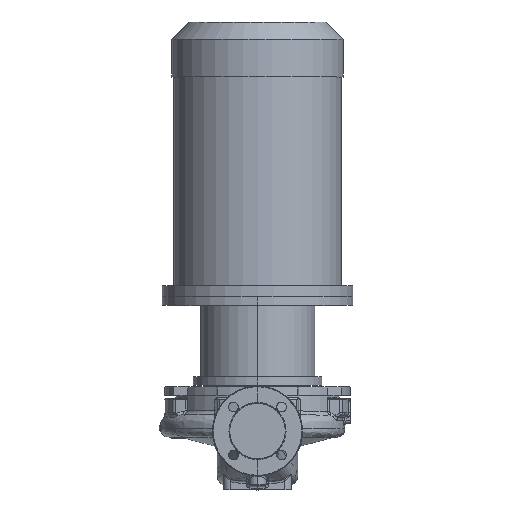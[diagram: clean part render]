
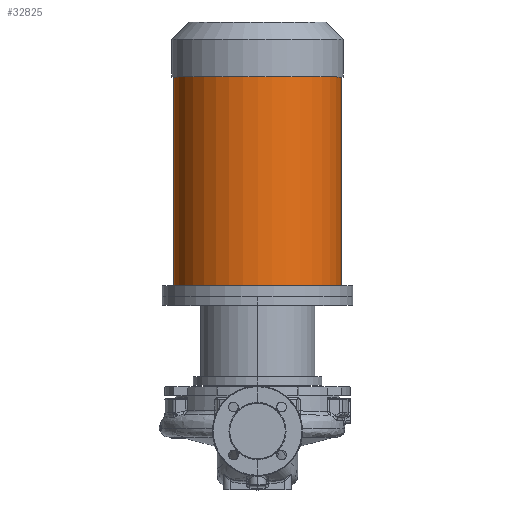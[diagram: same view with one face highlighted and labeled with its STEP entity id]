
A CAD part, top view. The second image highlights one B-rep face of the part: STEP entity #32825.
In plain terms, the highlighted cylindrical face has radius 154.5 mm (diameter 309 mm), a partial arc.
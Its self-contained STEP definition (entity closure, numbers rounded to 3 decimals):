
#4405 = LINE ( 'NONE', #45324, #38517 ) ;
#5188 = DIRECTION ( 'NONE',  ( -1., 0., 0. ) ) ;
#6588 = AXIS2_PLACEMENT_3D ( 'NONE', #66399, #73014, #78239 ) ;
#14841 = EDGE_CURVE ( 'NONE', #70916, #77348, #58061, .T. ) ;
#15779 = ORIENTED_EDGE ( 'NONE', *, *, #14841, .T. ) ;
#17446 = VECTOR ( 'NONE', #33647, 1000. ) ;
#19494 = CARTESIAN_POINT ( 'NONE',  ( 154.5, 267.3, 0. ) ) ;
#20991 = ORIENTED_EDGE ( 'NONE', *, *, #59426, .F. ) ;
#21762 = CARTESIAN_POINT ( 'NONE',  ( -154.5, 247.3, 0. ) ) ;
#23120 = CIRCLE ( 'NONE', #53256, 154.5 ) ;
#23400 = CYLINDRICAL_SURFACE ( 'NONE', #6588, 154.5 ) ;
#26355 = EDGE_CURVE ( 'NONE', #54568, #52793, #4405, .T. ) ;
#28749 = EDGE_CURVE ( 'NONE', #54568, #70916, #58365, .T. ) ;
#29394 = EDGE_LOOP ( 'NONE', ( #75702, #74096, #15779, #20991 ) ) ;
#32825 = ADVANCED_FACE ( 'NONE', ( #72489 ), #23400, .T. ) ;
#33647 = DIRECTION ( 'NONE',  ( 0., -1., 0. ) ) ;
#37002 = DIRECTION ( 'NONE',  ( -1., 0., 0. ) ) ;
#38517 = VECTOR ( 'NONE', #51160, 1000. ) ;
#41398 = CARTESIAN_POINT ( 'NONE',  ( 0., 267.3, 0. ) ) ;
#45243 = AXIS2_PLACEMENT_3D ( 'NONE', #67007, #73065, #37002 ) ;
#45324 = CARTESIAN_POINT ( 'NONE',  ( 154.5, 247.3, 0. ) ) ;
#51160 = DIRECTION ( 'NONE',  ( 0., -1., 0. ) ) ;
#52725 = CARTESIAN_POINT ( 'NONE',  ( 154.5, 651.3, 0. ) ) ;
#52793 = VERTEX_POINT ( 'NONE', #19494 ) ;
#53256 = AXIS2_PLACEMENT_3D ( 'NONE', #41398, #65094, #5188 ) ;
#54568 = VERTEX_POINT ( 'NONE', #52725 ) ;
#57128 = CARTESIAN_POINT ( 'NONE',  ( -154.5, 651.3, 0. ) ) ;
#58061 = LINE ( 'NONE', #21762, #17446 ) ;
#58365 = CIRCLE ( 'NONE', #45243, 154.5 ) ;
#59426 = EDGE_CURVE ( 'NONE', #52793, #77348, #23120, .T. ) ;
#65094 = DIRECTION ( 'NONE',  ( 0., -1., 0. ) ) ;
#66399 = CARTESIAN_POINT ( 'NONE',  ( 0., 247.3, 0. ) ) ;
#67007 = CARTESIAN_POINT ( 'NONE',  ( 0., 651.3, 0. ) ) ;
#70916 = VERTEX_POINT ( 'NONE', #57128 ) ;
#72489 = FACE_OUTER_BOUND ( 'NONE', #29394, .T. ) ;
#73014 = DIRECTION ( 'NONE',  ( 0., -1., 0. ) ) ;
#73065 = DIRECTION ( 'NONE',  ( 0., -1., 0. ) ) ;
#74096 = ORIENTED_EDGE ( 'NONE', *, *, #28749, .T. ) ;
#75702 = ORIENTED_EDGE ( 'NONE', *, *, #26355, .F. ) ;
#77348 = VERTEX_POINT ( 'NONE', #78293 ) ;
#78239 = DIRECTION ( 'NONE',  ( -1., 0., 0. ) ) ;
#78293 = CARTESIAN_POINT ( 'NONE',  ( -154.5, 267.3, 0. ) ) ;
